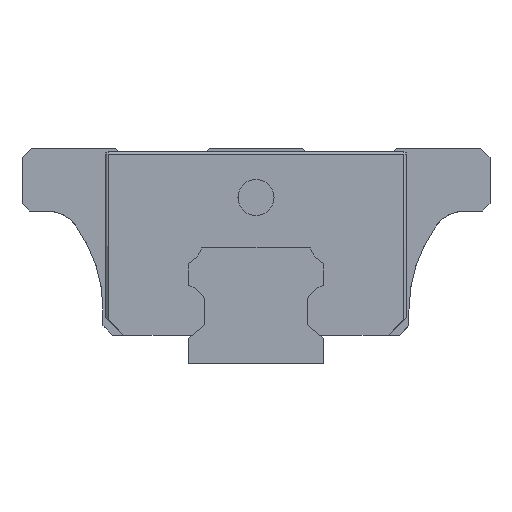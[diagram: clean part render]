
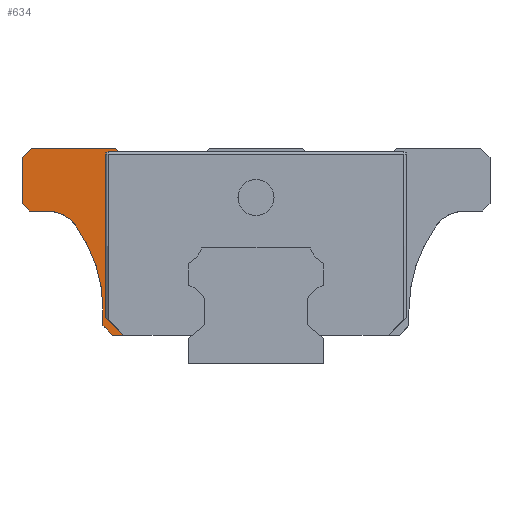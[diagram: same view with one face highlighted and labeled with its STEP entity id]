
A CAD part, left-side view. The second image highlights one B-rep face of the part: STEP entity #634.
In plain terms, the highlighted planar face has unit normal (-1, 0, 0).
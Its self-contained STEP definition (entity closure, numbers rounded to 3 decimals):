
#22 = LINE ( 'NONE', #2275, #4424 ) ;
#90 = ORIENTED_EDGE ( 'NONE', *, *, #2218, .T. ) ;
#150 = CARTESIAN_POINT ( 'NONE',  ( -11.45, 25.2, 17. ) ) ;
#251 = VECTOR ( 'NONE', #7009, 1000. ) ;
#267 = ORIENTED_EDGE ( 'NONE', *, *, #4644, .T. ) ;
#306 = ORIENTED_EDGE ( 'NONE', *, *, #3342, .T. ) ;
#335 = CARTESIAN_POINT ( 'NONE',  ( -11.45, 26., 17.8 ) ) ;
#369 = ORIENTED_EDGE ( 'NONE', *, *, #4987, .T. ) ;
#396 = ORIENTED_EDGE ( 'NONE', *, *, #7085, .F. ) ;
#471 = VECTOR ( 'NONE', #4860, 1000. ) ;
#623 = VERTEX_POINT ( 'NONE', #7255 ) ;
#634 = ADVANCED_FACE ( 'NONE', ( #2896 ), #4561, .T. ) ;
#747 = VERTEX_POINT ( 'NONE', #4042 ) ;
#780 = DIRECTION ( 'NONE',  ( 1., 0., 0. ) ) ;
#796 = ORIENTED_EDGE ( 'NONE', *, *, #5421, .T. ) ;
#827 = EDGE_LOOP ( 'NONE', ( #2263, #369, #6485, #267, #6477, #2421, #796, #90, #2789, #3039, #396, #3088, #2272, #306, #5573 ) ) ;
#874 = CARTESIAN_POINT ( 'NONE',  ( -11.45, 15.95, 3.2 ) ) ;
#945 = CARTESIAN_POINT ( 'NONE',  ( -11.45, 16.702, 23.33 ) ) ;
#962 = EDGE_CURVE ( 'NONE', #3441, #4124, #6631, .T. ) ;
#1221 = DIRECTION ( 'NONE',  ( 0., 0., -1. ) ) ;
#1272 = VERTEX_POINT ( 'NONE', #7157 ) ;
#1320 = CARTESIAN_POINT ( 'NONE',  ( -11.45, 16.702, 23.125 ) ) ;
#1335 = VERTEX_POINT ( 'NONE', #2380 ) ;
#1419 = CARTESIAN_POINT ( 'NONE',  ( -11.45, 25.2, 17. ) ) ;
#1471 = VERTEX_POINT ( 'NONE', #2016 ) ;
#1500 = VECTOR ( 'NONE', #5885, 1000. ) ;
#1512 = VERTEX_POINT ( 'NONE', #874 ) ;
#1706 = CARTESIAN_POINT ( 'NONE',  ( -11.45, 17., 6. ) ) ;
#1881 = DIRECTION ( 'NONE',  ( 0., -1., 0. ) ) ;
#1888 = LINE ( 'NONE', #2894, #6156 ) ;
#1965 = CARTESIAN_POINT ( 'NONE',  ( -11.45, 23.253, 13. ) ) ;
#1972 = VECTOR ( 'NONE', #7047, 1000. ) ;
#2016 = CARTESIAN_POINT ( 'NONE',  ( -11.45, 16.702, 5.2 ) ) ;
#2175 = DIRECTION ( 'NONE',  ( 0., 0., 1. ) ) ;
#2218 = EDGE_CURVE ( 'NONE', #4584, #1512, #4174, .T. ) ;
#2263 = ORIENTED_EDGE ( 'NONE', *, *, #2719, .T. ) ;
#2272 = ORIENTED_EDGE ( 'NONE', *, *, #3881, .F. ) ;
#2275 = CARTESIAN_POINT ( 'NONE',  ( -11.45, 16.702, 5.2 ) ) ;
#2380 = CARTESIAN_POINT ( 'NONE',  ( -11.45, 23.253, 17. ) ) ;
#2421 = ORIENTED_EDGE ( 'NONE', *, *, #6726, .T. ) ;
#2432 = VECTOR ( 'NONE', #2475, 1000. ) ;
#2475 = DIRECTION ( 'NONE',  ( 0., 0., -1. ) ) ;
#2517 = VECTOR ( 'NONE', #5354, 1000. ) ;
#2671 = LINE ( 'NONE', #3724, #1972 ) ;
#2719 = EDGE_CURVE ( 'NONE', #747, #3048, #2671, .T. ) ;
#2735 = CARTESIAN_POINT ( 'NONE',  ( -11.45, 16.442, 23.33 ) ) ;
#2749 = VECTOR ( 'NONE', #5426, 1000. ) ;
#2789 = ORIENTED_EDGE ( 'NONE', *, *, #5422, .T. ) ;
#2798 = CIRCLE ( 'NONE', #5045, 16. ) ;
#2854 = AXIS2_PLACEMENT_3D ( 'NONE', #2735, #4991, #2175 ) ;
#2894 = CARTESIAN_POINT ( 'NONE',  ( -11.45, 26., 24. ) ) ;
#2896 = FACE_OUTER_BOUND ( 'NONE', #827, .T. ) ;
#3000 = CARTESIAN_POINT ( 'NONE',  ( -11.45, -18.027, 23.59 ) ) ;
#3004 = CARTESIAN_POINT ( 'NONE',  ( -11.45, 17., 4.25 ) ) ;
#3039 = ORIENTED_EDGE ( 'NONE', *, *, #6233, .F. ) ;
#3048 = VERTEX_POINT ( 'NONE', #4343 ) ;
#3088 = ORIENTED_EDGE ( 'NONE', *, *, #962, .T. ) ;
#3099 = LINE ( 'NONE', #3642, #2517 ) ;
#3128 = LINE ( 'NONE', #1419, #2749 ) ;
#3153 = CARTESIAN_POINT ( 'NONE',  ( -11.45, 15.6, 24. ) ) ;
#3342 = EDGE_CURVE ( 'NONE', #7186, #3959, #3099, .T. ) ;
#3365 = CARTESIAN_POINT ( 'NONE',  ( -11.45, 16.442, 23.59 ) ) ;
#3408 = DIRECTION ( 'NONE',  ( 0., 0., -1. ) ) ;
#3411 = AXIS2_PLACEMENT_3D ( 'NONE', #1965, #3659, #4247 ) ;
#3441 = VERTEX_POINT ( 'NONE', #945 ) ;
#3584 = CARTESIAN_POINT ( 'NONE',  ( -11.45, 17.674, 3.2 ) ) ;
#3642 = CARTESIAN_POINT ( 'NONE',  ( -11.45, 15.233, 23.563 ) ) ;
#3659 = DIRECTION ( 'NONE',  ( 1., 0., 0. ) ) ;
#3724 = CARTESIAN_POINT ( 'NONE',  ( -11.45, 24.95, 24. ) ) ;
#3729 = CARTESIAN_POINT ( 'NONE',  ( -11.45, 33., 6. ) ) ;
#3858 = VERTEX_POINT ( 'NONE', #4209 ) ;
#3881 = EDGE_CURVE ( 'NONE', #7186, #4124, #4126, .T. ) ;
#3958 = EDGE_CURVE ( 'NONE', #1335, #1272, #5556, .T. ) ;
#3959 = VERTEX_POINT ( 'NONE', #3153 ) ;
#4042 = CARTESIAN_POINT ( 'NONE',  ( -11.45, 24.95, 24. ) ) ;
#4067 = EDGE_CURVE ( 'NONE', #3959, #747, #5041, .T. ) ;
#4124 = VERTEX_POINT ( 'NONE', #3365 ) ;
#4126 = LINE ( 'NONE', #3000, #471 ) ;
#4174 = LINE ( 'NONE', #3004, #1500 ) ;
#4209 = CARTESIAN_POINT ( 'NONE',  ( -11.45, 26., 17.8 ) ) ;
#4247 = DIRECTION ( 'NONE',  ( 0., 0., 1. ) ) ;
#4283 = EDGE_CURVE ( 'NONE', #3858, #6581, #6380, .T. ) ;
#4317 = AXIS2_PLACEMENT_3D ( 'NONE', #5777, #5187, #6326 ) ;
#4343 = CARTESIAN_POINT ( 'NONE',  ( -11.45, 26., 22.95 ) ) ;
#4368 = DIRECTION ( 'NONE',  ( 0., 1., 0. ) ) ;
#4424 = VECTOR ( 'NONE', #4537, 1000. ) ;
#4535 = VECTOR ( 'NONE', #1221, 1000. ) ;
#4537 = DIRECTION ( 'NONE',  ( 0., -0.707, -0.707 ) ) ;
#4561 = PLANE ( 'NONE',  #4317 ) ;
#4584 = VERTEX_POINT ( 'NONE', #6195 ) ;
#4644 = EDGE_CURVE ( 'NONE', #6581, #1335, #3128, .T. ) ;
#4850 = VECTOR ( 'NONE', #4368, 1000. ) ;
#4860 = DIRECTION ( 'NONE',  ( 0., 1., 0. ) ) ;
#4925 = CARTESIAN_POINT ( 'NONE',  ( -11.45, 15.256, 23.59 ) ) ;
#4987 = EDGE_CURVE ( 'NONE', #3048, #3858, #1888, .T. ) ;
#4991 = DIRECTION ( 'NONE',  ( 1., 0., 0. ) ) ;
#5041 = LINE ( 'NONE', #7171, #4850 ) ;
#5045 = AXIS2_PLACEMENT_3D ( 'NONE', #3729, #780, #7090 ) ;
#5187 = DIRECTION ( 'NONE',  ( -1., 0., 0. ) ) ;
#5354 = DIRECTION ( 'NONE',  ( 0., 0.643, 0.766 ) ) ;
#5421 = EDGE_CURVE ( 'NONE', #623, #4584, #6755, .T. ) ;
#5422 = EDGE_CURVE ( 'NONE', #1512, #6462, #6970, .T. ) ;
#5426 = DIRECTION ( 'NONE',  ( 0., -1., 0. ) ) ;
#5507 = CARTESIAN_POINT ( 'NONE',  ( -11.45, 14.702, 3.2 ) ) ;
#5556 = CIRCLE ( 'NONE', #3411, 4. ) ;
#5573 = ORIENTED_EDGE ( 'NONE', *, *, #4067, .T. ) ;
#5777 = CARTESIAN_POINT ( 'NONE',  ( -11.45, -6.587, 3.2 ) ) ;
#5885 = DIRECTION ( 'NONE',  ( 0., -0.707, -0.707 ) ) ;
#6079 = VECTOR ( 'NONE', #1881, 1000. ) ;
#6156 = VECTOR ( 'NONE', #3408, 1000. ) ;
#6195 = CARTESIAN_POINT ( 'NONE',  ( -11.45, 17., 4.25 ) ) ;
#6233 = EDGE_CURVE ( 'NONE', #1471, #6462, #22, .T. ) ;
#6326 = DIRECTION ( 'NONE',  ( 0., 0., 1. ) ) ;
#6380 = LINE ( 'NONE', #335, #251 ) ;
#6462 = VERTEX_POINT ( 'NONE', #5507 ) ;
#6477 = ORIENTED_EDGE ( 'NONE', *, *, #3958, .T. ) ;
#6485 = ORIENTED_EDGE ( 'NONE', *, *, #4283, .T. ) ;
#6581 = VERTEX_POINT ( 'NONE', #150 ) ;
#6631 = CIRCLE ( 'NONE', #2854, 0.26 ) ;
#6726 = EDGE_CURVE ( 'NONE', #1272, #623, #2798, .T. ) ;
#6755 = LINE ( 'NONE', #1706, #4535 ) ;
#6970 = LINE ( 'NONE', #3584, #6079 ) ;
#7009 = DIRECTION ( 'NONE',  ( 0., -0.707, -0.707 ) ) ;
#7041 = LINE ( 'NONE', #1320, #2432 ) ;
#7047 = DIRECTION ( 'NONE',  ( 0., 0.707, -0.707 ) ) ;
#7085 = EDGE_CURVE ( 'NONE', #3441, #1471, #7041, .T. ) ;
#7090 = DIRECTION ( 'NONE',  ( 0., 0., 1. ) ) ;
#7157 = CARTESIAN_POINT ( 'NONE',  ( -11.45, 20.004, 15.333 ) ) ;
#7171 = CARTESIAN_POINT ( 'NONE',  ( -11.45, 15.6, 24. ) ) ;
#7186 = VERTEX_POINT ( 'NONE', #4925 ) ;
#7255 = CARTESIAN_POINT ( 'NONE',  ( -11.45, 17., 6. ) ) ;
